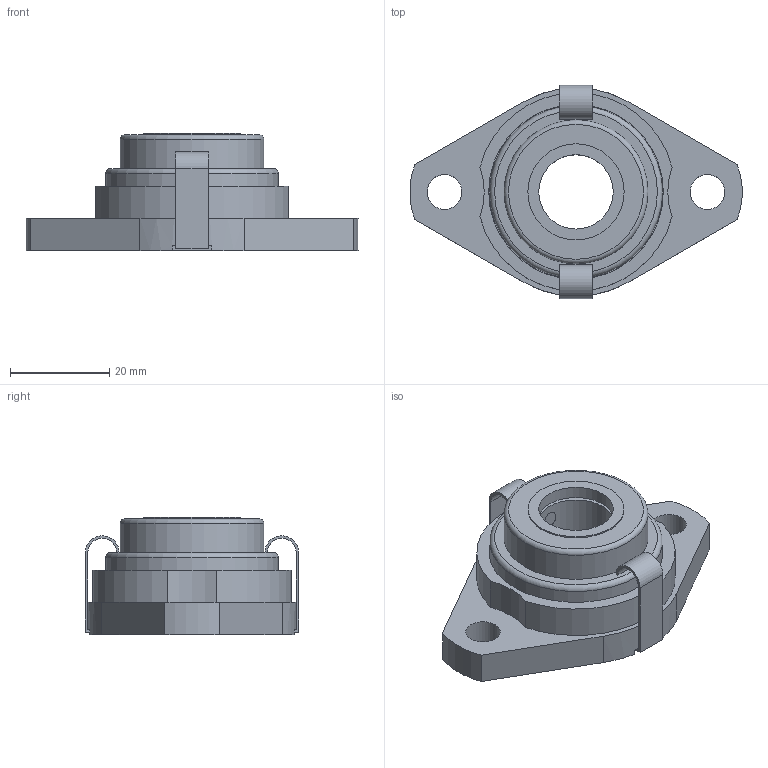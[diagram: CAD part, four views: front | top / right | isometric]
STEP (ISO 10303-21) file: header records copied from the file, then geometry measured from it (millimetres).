
FILE_DESCRIPTION((''),'2;1');
FILE_NAME('\\Ts-tgl068\j-cad-d-base\00.3DCADデータ作成フォルダ\11.エコシリーズ\MUSFL000\MUSFL002C.stp','2014-11-12T09:42:44',('btec_1106_2'),(''),'Autodesk Inventor 2012','Autodesk Inventor 2012','');
FILE_SCHEMA(('AUTOMOTIVE_DESIGN { 1 0 10303 214 1 1 1 1 }'));
Length unit declared in the file: millimetre
Products named in the file (5): MUSFL000C(E); SFL002; U002; 002CP15; 2-3CLL
Assembly tree (5 placements, depth 2):
  MUSFL000C(E)
    SFL002
    U002
    002CP15
    2-3CLL  x2
Bounding box: 66.92 x 43 x 23.6 mm (x, y, z)
Volume: 16883.2 mm3; surface area: 14256.7 mm2
Topology: 5 solids, 5 shells, 112 faces, 267 edges, 175 vertices
Faces by surface type: plane 62, cylinder 41, torus 4, cone 3, sphere 2
Full cylindrical faces by diameter (mm): 3.5 x1, 4 x1, 7 x2, 15 x2, 19.4 x2, 20.1 x1, 22 x1, 28.4 x1, 29 x1, 34.2 x1, 34.8 x1, 35.2 x1
Entity records: 3058 total; most frequent: CARTESIAN_POINT 606, DIRECTION 516, ORIENTED_EDGE 418, EDGE_CURVE 209, AXIS2_PLACEMENT_3D 201, VERTEX_POINT 151, EDGE_LOOP 150, VECTOR 114
